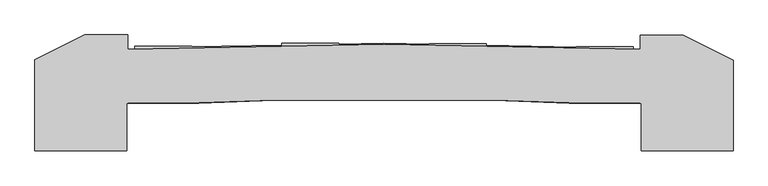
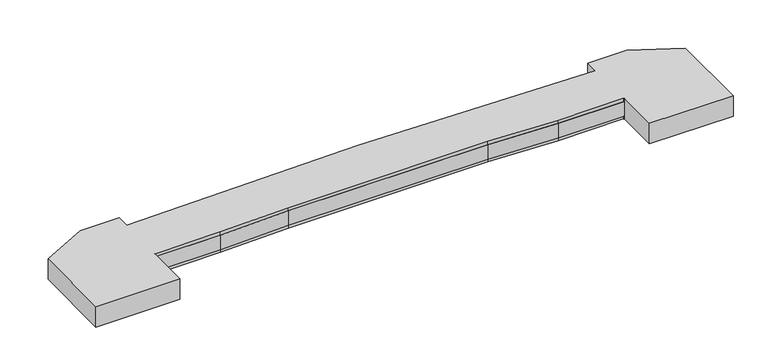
"""IFC4 building model written with IfcOpenShell, lengths in millimetres: proxy geometry, Backwall.sat."""

from ifc_helpers import new_model, si_unit, origin, place, context, project, spatial, faceted_brep, source, transform, mapped, element, save


def generic_models_fdd43730(model_context):
    return source(origin(), model_context, "Body", "Brep", [
        faceted_brep([(5486.4, 2165.35, -228.6), (5486.4, 2470.15, -228.6), (5994.4, 2470.15, -228.6), (5994.4, 2190.4963827, -228.6), (5334.0, 2136.5707716, -228.6), (5334.0, 2168.5743889, -228.6), (-5486.4, 2171.7, -228.6), (-5334.0, 2174.748, -228.6), (-5334.0, 2142.7427236, -228.6), (-5994.4, 2196.8447236, -228.6), (-5994.4, 2476.5, -228.6), (-5486.4, 2476.5, -228.6), (5994.4, 2470.15, -508.0), (5994.4, 2190.4963827, -508.0), (5334.0, 2136.5707716, -508.0), (5334.0, 2225.7243889, -508.0), (5334.0, 2225.7243889, -228.6), (4114.8, 2225.7243889, -508.0), (4114.8, 2225.7243889, -228.6), (4114.8, 2213.3555512, -508.0), (4114.8, 2213.3555512, -228.6), (2184.4, 2254.1978104, -508.0), (2184.4, 2254.1978104, -228.6), (2184.4, 2292.3617593, -508.0), (2184.4, 2292.3617593, -228.6), (965.2, 2292.3617593, -508.0), (965.2, 2292.3617593, -228.6), (965.2, 2279.9929215, -508.0), (965.2, 2279.9929215, -228.6), (-0.1653296, 2300.4175491, -508.0), (-0.1653296, 2300.4175491, -228.6), (-965.2, 2281.1168557, -508.0), (-965.2, 2281.1168557, -228.6), (-965.2, 2294.89, -508.0), (-965.2, 2294.89, -228.6), (-2184.4, 2294.89, -508.0), (-2184.4, 2294.89, -228.6), (-2184.4, 2256.7328557, -508.0), (-2184.4, 2256.7328557, -228.6), (-4114.8, 2218.1248557, -508.0), (-4114.8, 2218.1248557, -228.6), (-4114.8, 2231.898, -508.0), (-4114.8, 2231.898, -228.6), (-5334.0, 2231.898, -508.0), (-5334.0, 2231.898, -228.6), (-5334.0, 2142.7427236, -508.0), (-5994.4, 2196.8447236, -508.0), (-5994.4, 2476.5, -508.0), (6400.8, 2470.15, -508.0), (7467.6, 1936.75, -508.0), (7467.6, 0.0, -508.0), (5505.45, 0.0, -508.0), (5505.45, 1016.0, -508.0), (5486.4, 1016.0, -508.0), (5486.4, 1022.35, -508.0), (3962.5190207, 1022.35, -508.0), (2336.9190207, 1083.31, -508.0), (-2336.9190207, 1083.31, -508.0), (-3962.5190207, 1022.35, -508.0), (-5486.4, 1022.35, -508.0), (-5486.4, 1016.0, -508.0), (-5505.45, 1016.0, -508.0), (-5505.45, 0.0, -508.0), (-7467.6, 0.0, -508.0), (-7467.6, 1943.1, -508.0), (-6400.8, 2476.5, -508.0), (5486.4, 2470.15, 0.0), (6400.8, 2470.15, 0.0), (-5486.4, 1022.35, -431.8), (-5486.4, 1016.0, -431.8), (-3962.5190207, 1022.35, -431.8), (-2336.9190207, 1083.31, -431.8), (2336.9190207, 1083.31, -431.8), (3962.5190207, 1022.35, -431.8), (5486.4, 1022.35, -431.8), (5486.4, 1016.0, -431.8), (-3962.4, 1016.0, -431.8), (3962.4, 1016.0, -431.8), (2336.8, 1076.96, -431.8), (-2336.8, 1076.96, -431.8), (-3962.4, 1016.0, -76.2), (-5486.4, 1016.0, -76.2), (-5486.4, 1016.0, 0.0), (-5505.45, 1016.0, 0.0), (5486.4, 1016.0, 0.0), (5486.4, 1022.35, 0.0), (5486.4, 1022.35, -76.2), (5486.4, 1016.0, -76.2), (3962.5190207, 1022.35, 0.0), (3962.5190207, 1022.35, -76.2), (2336.9190207, 1083.31, 0.0), (2336.9190207, 1083.31, -76.2), (-2336.9190207, 1083.31, 0.0), (-2336.9190207, 1083.31, -76.2), (-3962.5190207, 1022.35, 0.0), (-3962.5190207, 1022.35, -76.2), (-5486.4, 1022.35, 0.0), (-5486.4, 1022.35, -76.2), (3962.4, 1016.0, -76.2), (-2336.8, 1076.96, -76.2), (2336.8, 1076.96, -76.2), (5505.45, 1016.0, 0.0), (5505.45, 0.0, 0.0), (7467.6, 0.0, 0.0), (7467.6, 1936.75, 0.0), (5486.4, 2165.35, 0.0), (0.0, 2281.428, 0.0), (-5486.4, 2171.7, 0.0), (-5486.4, 2476.5, 0.0), (-6400.8, 2476.5, 0.0), (-7467.6, 1943.1, 0.0), (-7467.6, 0.0, 0.0), (-5505.45, 0.0, 0.0), (0.0, 2281.428, -228.6)], [[[0, 1, 2, 3, 4, 5]], [[6, 7, 8, 9, 10, 11]], [[12, 13, 3, 2]], [[13, 14, 4, 3]], [[14, 15, 16, 5, 4]], [[15, 17, 18, 16]], [[17, 19, 20, 18]], [[19, 21, 22, 20]], [[21, 23, 24, 22]], [[23, 25, 26, 24]], [[25, 27, 28, 26]], [[27, 29, 30, 28]], [[29, 31, 32, 30]], [[31, 33, 34, 32]], [[33, 35, 36, 34]], [[35, 37, 38, 36]], [[37, 39, 40, 38]], [[39, 41, 42, 40]], [[41, 43, 44, 42]], [[43, 45, 8, 7, 44]], [[45, 46, 9, 8]], [[46, 47, 10, 9]], [[47, 46, 45, 43, 41, 39, 37, 35, 33, 31, 29, 27, 25, 23, 21, 19, 17, 15, 14, 13, 12, 48, 49, 50, 51, 52, 53, 54, 55, 56, 57, 58, 59, 60, 61, 62, 63, 64, 65]], [[12, 2, 1, 66, 67, 48]], [[60, 59, 68, 69]], [[59, 58, 70, 68]], [[58, 57, 71, 70]], [[57, 56, 72, 71]], [[56, 55, 73, 72]], [[55, 54, 74, 73]], [[54, 53, 75, 74]], [[76, 69, 68, 70, 71, 72, 73, 74, 75, 77, 78, 79]], [[60, 69, 76, 80, 81, 82, 83, 61]], [[84, 85, 86, 87]], [[85, 88, 89, 86]], [[88, 90, 91, 89]], [[90, 92, 93, 91]], [[92, 94, 95, 93]], [[94, 96, 97, 95]], [[96, 82, 81, 97]], [[98, 87, 86, 89, 91, 93, 95, 97, 81, 80, 99, 100]], [[82, 96, 94, 92, 90, 88, 85, 84, 101, 102, 103, 104, 67, 66, 105, 106, 107, 108, 109, 110, 111, 112, 83]], [[75, 53, 52, 101, 84, 87, 98, 77]], [[108, 107, 6, 11]], [[107, 106, 113, 7, 6]], [[106, 105, 0, 5, 113]], [[105, 66, 1, 0]], [[44, 7, 113, 5, 16, 18, 20, 22, 24, 26, 28, 30, 32, 34, 36, 38, 40, 42]], [[111, 110, 64, 63]], [[112, 111, 63, 62]], [[83, 112, 62, 61]], [[76, 79, 99, 80]], [[79, 78, 100, 99]], [[78, 77, 98, 100]], [[102, 101, 52, 51]], [[103, 102, 51, 50]], [[104, 103, 50, 49]], [[67, 104, 49, 48]], [[10, 47, 65, 109, 108, 11]], [[110, 109, 65, 64]]]),
    ])


if __name__ == "__main__":
    model = new_model("IFC4")
    model_context = context("Model", 3, world=origin())
    ifc_project = project(units=[si_unit("LENGTHUNIT", "METRE", prefix="MILLI")], contexts=[model_context])
    site = spatial("IfcSite", under=ifc_project)
    building = spatial("IfcBuilding", under=site)
    placement = place(None, origin())
    generic_models_shape = generic_models_fdd43730(model_context)
    element("IfcBuildingElementProxy", 1, Name="Backwall.sat", ObjectType="Backwall.sat", at=placement, inside=building, context=model_context, shape_type="MappedRepresentation", body=[
        mapped(generic_models_shape, transform((0.0, 0.0, 0.0), x_axis=(1.0, 0.0, 0.0), y_axis=(0.0, 1.0, 0.0), z_axis=(0.0, 0.0, 1.0))),
    ])
    save(model, "model.ifc")
